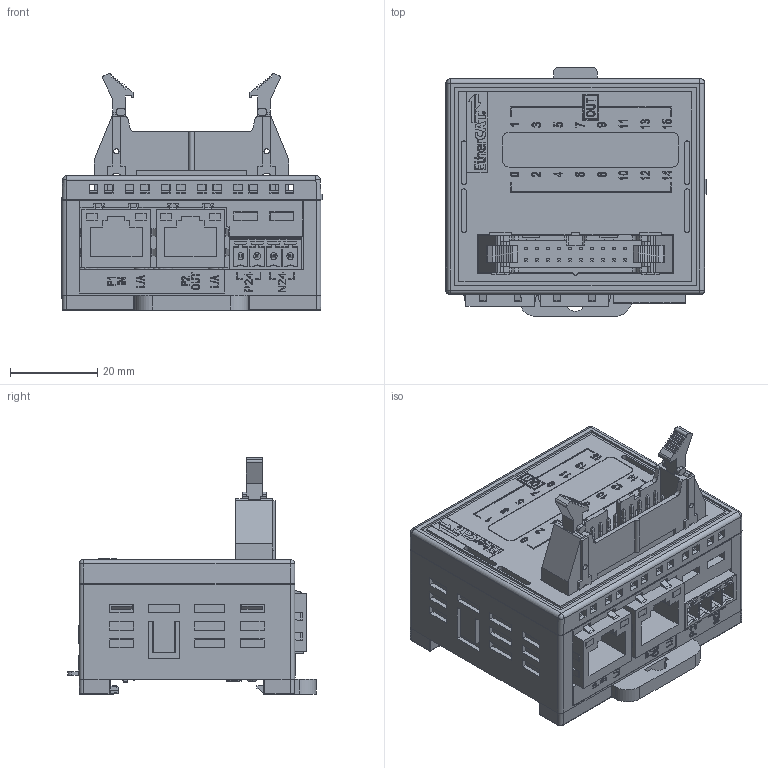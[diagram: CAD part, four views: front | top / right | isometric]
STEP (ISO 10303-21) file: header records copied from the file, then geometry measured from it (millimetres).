
FILE_DESCRIPTION((''),'2;1');
FILE_NAME('ECCMP0F','2026-05-11T14:23:45',('gijyu181'),(''),'CREO PARAMETRIC BY PTC INC, 2018050','CREO PARAMETRIC BY PTC INC, 2018050','');
FILE_SCHEMA(('CONFIG_CONTROL_DESIGN','SHAPE_APPEARANCE_LAYERS_GROUPS'));
Products named in the file (1): ECCMP0F
Bounding box: 59.75 x 57.15 x 54.5 mm (x, y, z)
Volume: 70721.1 mm3; surface area: 38762.1 mm2
Topology: 1 solids, 15 shells, 6224 faces, 17217 edges, 11325 vertices
Faces by surface type: plane 4727, extrusion 703, cylinder 680, sphere 44, torus 26, bspline 24, cone 20
Entity records: 248176 total; most frequent: CARTESIAN_POINT 43658, ORIENTED_EDGE 34406, DIRECTION 28557, EDGE_CURVE 17207, VECTOR 14801, LINE 14098, VERTEX_POINT 11325, PRESENTATION_STYLE_ASSIGNMENT 9475
